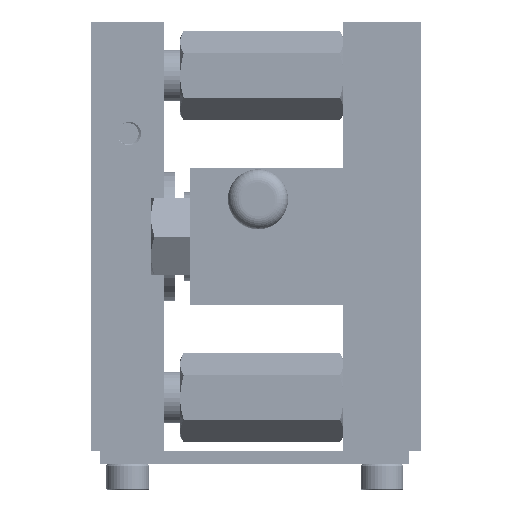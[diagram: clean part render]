
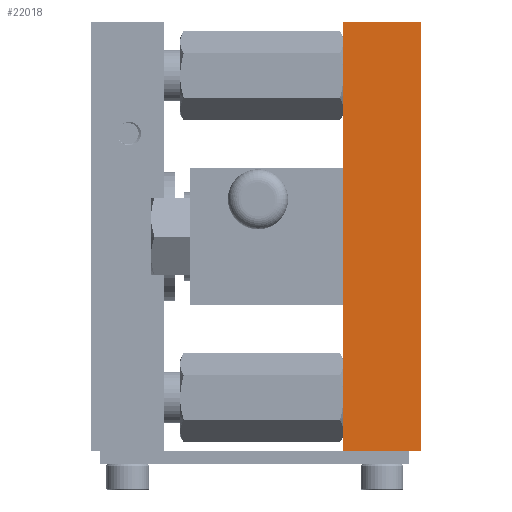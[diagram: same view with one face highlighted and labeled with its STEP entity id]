
A CAD part, left-side view. The second image highlights one B-rep face of the part: STEP entity #22018.
In plain terms, the highlighted planar face has unit normal (-1, 0, 0).
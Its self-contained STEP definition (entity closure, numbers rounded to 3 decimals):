
#472=PLANE('',#23458);
#1408=FACE_OUTER_BOUND('',#2682,.T.);
#2682=EDGE_LOOP('',(#15632,#15633,#15634,#15635));
#5782=LINE('',#37668,#7343);
#5794=LINE('',#45757,#7355);
#5795=LINE('',#45760,#7356);
#5796=LINE('',#45761,#7357);
#7343=VECTOR('',#24954,10.);
#7355=VECTOR('',#25024,10.);
#7356=VECTOR('',#25027,10.);
#7357=VECTOR('',#25028,10.);
#9118=VERTEX_POINT('',#37665);
#9119=VERTEX_POINT('',#37667);
#9133=VERTEX_POINT('',#45755);
#9134=VERTEX_POINT('',#45759);
#11553=EDGE_CURVE('',#9118,#9119,#5782,.T.);
#11615=EDGE_CURVE('',#9133,#9119,#5794,.T.);
#11616=EDGE_CURVE('',#9133,#9134,#5795,.T.);
#11617=EDGE_CURVE('',#9134,#9118,#5796,.T.);
#15632=ORIENTED_EDGE('',*,*,#11616,.F.);
#15633=ORIENTED_EDGE('',*,*,#11615,.T.);
#15634=ORIENTED_EDGE('',*,*,#11553,.F.);
#15635=ORIENTED_EDGE('',*,*,#11617,.F.);
#22018=ADVANCED_FACE('',(#1408),#472,.T.);
#23458=AXIS2_PLACEMENT_3D('',#45758,#25025,#25026);
#24954=DIRECTION('',(0.,0.,1.));
#25024=DIRECTION('',(0.,1.,0.));
#25025=DIRECTION('center_axis',(-1.,0.,0.));
#25026=DIRECTION('ref_axis',(0.,0.,1.));
#25027=DIRECTION('',(0.,0.,-1.));
#25028=DIRECTION('',(0.,1.,0.));
#37665=CARTESIAN_POINT('',(-97.5,18.,-50.));
#37667=CARTESIAN_POINT('',(-97.5,18.,50.));
#37668=CARTESIAN_POINT('',(-97.5,18.,50.));
#45755=CARTESIAN_POINT('',(-97.5,0.,50.));
#45757=CARTESIAN_POINT('',(-97.5,0.,50.));
#45758=CARTESIAN_POINT('Origin',(-97.5,0.,-50.));
#45759=CARTESIAN_POINT('',(-97.5,0.,-50.));
#45760=CARTESIAN_POINT('',(-97.5,0.,50.));
#45761=CARTESIAN_POINT('',(-97.5,0.,-50.));
